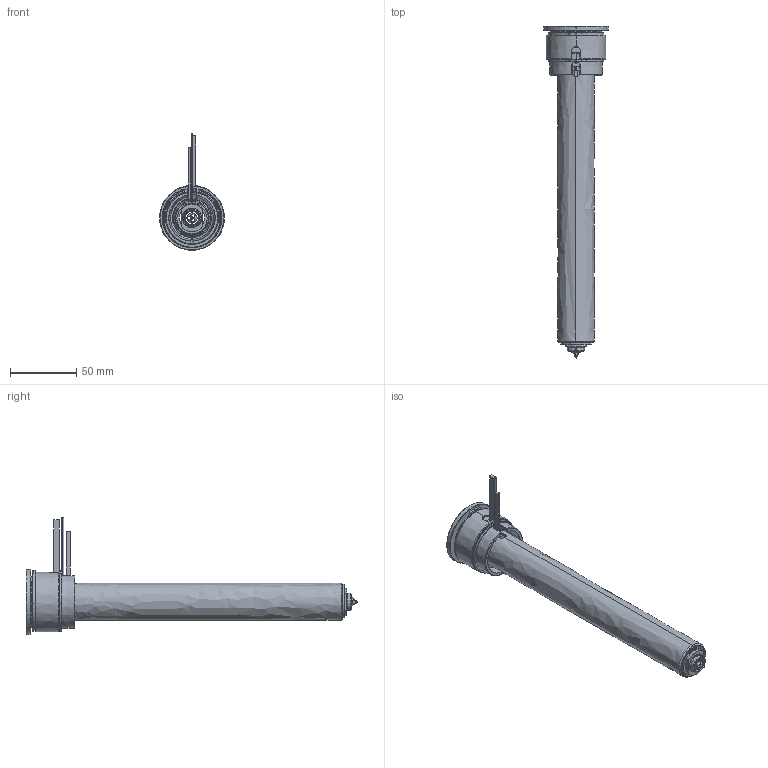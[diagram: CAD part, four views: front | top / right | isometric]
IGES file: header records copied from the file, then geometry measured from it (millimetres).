
Start section: SolidWorks IGES file using analytic representation for surfaces
Global section: file name: C:\Documents and Settings\ws-20\Desktop\TEM\UGEP4505-S-A-0 [Øf-0.88 ØC-09].IGS; native system: SolidWorks 2012; preprocessor: SolidWorks 2012; author: ws-20; date: 120424.090003; units: millimetre
Bounding box: 49 x 250.8 x 88.15 mm (x, y, z)
Surface area: 76114.1 mm2 (no closed solid volume)
Topology: 0 solids, 0 shells, 175 faces, 3312 edges, 3312 vertices
Faces by surface type: revolution 110, bspline 65
